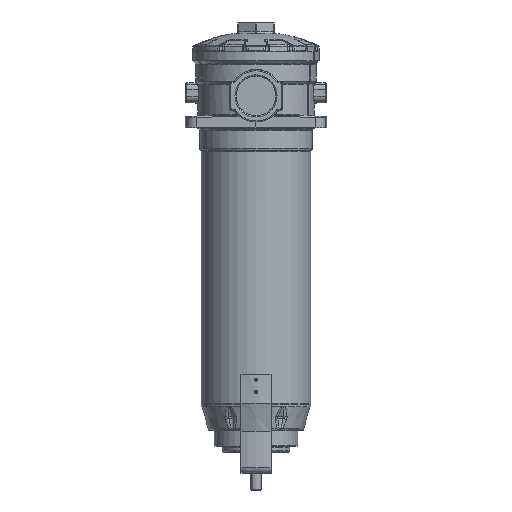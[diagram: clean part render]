
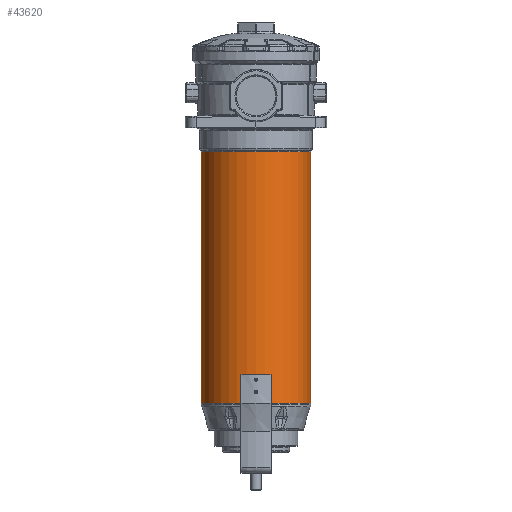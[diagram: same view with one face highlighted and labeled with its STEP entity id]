
A CAD part, front view. The second image highlights one B-rep face of the part: STEP entity #43620.
In plain terms, the highlighted cylindrical face has radius 54.5 mm (diameter 109 mm), a partial arc.
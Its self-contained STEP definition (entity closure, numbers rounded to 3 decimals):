
#6996=CARTESIAN_POINT('',(54.5,0.004,
-99.736));
#7116=CARTESIAN_POINT('',(0.,0.,
-350.852));
#7117=DIRECTION('',(0.,0.,1.));
#7118=DIRECTION('',(-1.,0.,0.));
#7119=AXIS2_PLACEMENT_3D('',#7116,#7117,#7118);
#7124=DIRECTION('',(0.,0.,-1.));
#7125=VECTOR('',#7124,251.116);
#7126=CARTESIAN_POINT('',(-54.5,0.,
-99.736));
#7127=LINE('',#7126,#7125);
#7131=DIRECTION('',(0.,0.,-1.));
#7132=VECTOR('',#7131,251.116);
#7133=CARTESIAN_POINT('',(54.5,0.004,
-99.736));
#7134=LINE('',#7133,#7132);
#7138=CARTESIAN_POINT('',(0.,0.,
-99.736));
#7139=DIRECTION('',(0.,0.,-1.));
#7140=DIRECTION('',(1.,0.,0.));
#7141=AXIS2_PLACEMENT_3D('',#7138,#7139,#7140);
#7154=CARTESIAN_POINT('',(-0.443,-54.498,
-339.45));
#7155=CARTESIAN_POINT('',(-0.443,-54.498,
-339.41));
#7156=CARTESIAN_POINT('',(-0.433,-54.498,
-339.332));
#7157=CARTESIAN_POINT('',(-0.388,-54.499,
-339.221));
#7158=CARTESIAN_POINT('',(-0.316,-54.499,
-339.126));
#7159=CARTESIAN_POINT('',(-0.221,-54.5,
-339.053));
#7160=CARTESIAN_POINT('',(-0.114,-54.5,
-339.009));
#7161=CARTESIAN_POINT('',(0.,-54.5,
-338.994));
#7162=CARTESIAN_POINT('',(0.113,-54.5,
-339.009));
#7163=CARTESIAN_POINT('',(0.221,-54.5,
-339.053));
#7164=CARTESIAN_POINT('',(0.316,-54.499,
-339.126));
#7165=CARTESIAN_POINT('',(0.388,-54.499,
-339.221));
#7166=CARTESIAN_POINT('',(0.433,-54.498,
-339.332));
#7167=CARTESIAN_POINT('',(0.443,-54.498,
-339.41));
#7168=CARTESIAN_POINT('',(0.443,-54.498,
-339.45));
#7189=CARTESIAN_POINT('',(0.443,-54.498,
-339.45));
#7190=CARTESIAN_POINT('',(0.443,-54.498,
-339.49));
#7191=CARTESIAN_POINT('',(0.433,-54.498,
-339.568));
#7192=CARTESIAN_POINT('',(0.388,-54.499,
-339.679));
#7193=CARTESIAN_POINT('',(0.316,-54.499,
-339.774));
#7194=CARTESIAN_POINT('',(0.221,-54.5,
-339.847));
#7195=CARTESIAN_POINT('',(0.114,-54.5,
-339.891));
#7196=CARTESIAN_POINT('',(0.,-54.5,
-339.906));
#7197=CARTESIAN_POINT('',(-0.113,-54.5,
-339.891));
#7198=CARTESIAN_POINT('',(-0.221,-54.5,
-339.847));
#7199=CARTESIAN_POINT('',(-0.316,-54.499,
-339.774));
#7200=CARTESIAN_POINT('',(-0.388,-54.499,
-339.679));
#7201=CARTESIAN_POINT('',(-0.433,-54.498,
-339.568));
#7202=CARTESIAN_POINT('',(-0.443,-54.498,
-339.49));
#7203=CARTESIAN_POINT('',(-0.443,-54.498,
-339.45));
#12746=CARTESIAN_POINT('',(0.443,-54.498,
-327.45));
#12747=CARTESIAN_POINT('',(0.443,-54.498,
-327.49));
#12748=CARTESIAN_POINT('',(0.433,-54.498,
-327.568));
#12749=CARTESIAN_POINT('',(0.388,-54.499,
-327.679));
#12750=CARTESIAN_POINT('',(0.316,-54.499,
-327.774));
#12751=CARTESIAN_POINT('',(0.221,-54.5,
-327.847));
#12752=CARTESIAN_POINT('',(0.114,-54.5,
-327.891));
#12753=CARTESIAN_POINT('',(0.,-54.5,
-327.906));
#12754=CARTESIAN_POINT('',(-0.113,-54.5,
-327.891));
#12755=CARTESIAN_POINT('',(-0.221,-54.5,
-327.847));
#12756=CARTESIAN_POINT('',(-0.316,-54.499,
-327.774));
#12757=CARTESIAN_POINT('',(-0.388,-54.499,
-327.679));
#12758=CARTESIAN_POINT('',(-0.433,-54.498,
-327.568));
#12759=CARTESIAN_POINT('',(-0.443,-54.498,
-327.49));
#12760=CARTESIAN_POINT('',(-0.443,-54.498,
-327.45));
#12796=CARTESIAN_POINT('',(-0.443,-54.498,
-327.45));
#12797=CARTESIAN_POINT('',(-0.443,-54.498,
-327.41));
#12798=CARTESIAN_POINT('',(-0.433,-54.498,
-327.332));
#12799=CARTESIAN_POINT('',(-0.388,-54.499,
-327.221));
#12800=CARTESIAN_POINT('',(-0.316,-54.499,
-327.126));
#12801=CARTESIAN_POINT('',(-0.221,-54.5,
-327.053));
#12802=CARTESIAN_POINT('',(-0.114,-54.5,
-327.009));
#12803=CARTESIAN_POINT('',(0.,-54.5,
-326.994));
#12804=CARTESIAN_POINT('',(0.113,-54.5,
-327.009));
#12805=CARTESIAN_POINT('',(0.221,-54.5,
-327.053));
#12806=CARTESIAN_POINT('',(0.316,-54.499,
-327.126));
#12807=CARTESIAN_POINT('',(0.388,-54.499,
-327.221));
#12808=CARTESIAN_POINT('',(0.433,-54.498,
-327.332));
#12809=CARTESIAN_POINT('',(0.443,-54.498,
-327.41));
#12810=CARTESIAN_POINT('',(0.443,-54.498,
-327.45));
#34769=CARTESIAN_POINT('',(-54.5,0.,
-99.736));
#34771=VERTEX_POINT('',#34769);
#34773=VERTEX_POINT('',#6996);
#34778=CARTESIAN_POINT('',(54.5,0.003,
-350.852));
#34779=VERTEX_POINT('',#34778);
#34780=CARTESIAN_POINT('',(-54.5,0.,
-350.852));
#34781=VERTEX_POINT('',#34780);
#34840=VERTEX_POINT('',#7154);
#34841=VERTEX_POINT('',#7168);
#34842=VERTEX_POINT('',#12796);
#34843=VERTEX_POINT('',#12810);
#43596=CARTESIAN_POINT('',(0.,0.,
-225.448));
#43597=DIRECTION('',(0.,0.,-1.));
#43598=DIRECTION('',(-1.,0.,0.));
#43599=AXIS2_PLACEMENT_3D('',#43596,#43597,#43598);
#43600=CYLINDRICAL_SURFACE('',#43599,54.5);
#43601=ORIENTED_EDGE('',*,*,#43590,.F.);
#43602=ORIENTED_EDGE('',*,*,#43506,.F.);
#43604=ORIENTED_EDGE('',*,*,#43603,.F.);
#43605=ORIENTED_EDGE('',*,*,#43503,.T.);
#43606=EDGE_LOOP('',(#43601,#43602,#43604,#43605));
#43607=FACE_OUTER_BOUND('',#43606,.F.);
#43609=ORIENTED_EDGE('',*,*,#43608,.F.);
#43611=ORIENTED_EDGE('',*,*,#43610,.F.);
#43612=EDGE_LOOP('',(#43609,#43611));
#43613=FACE_BOUND('',#43612,.F.);
#43615=ORIENTED_EDGE('',*,*,#43614,.F.);
#43617=ORIENTED_EDGE('',*,*,#43616,.F.);
#43618=EDGE_LOOP('',(#43615,#43617));
#43619=FACE_BOUND('',#43618,.F.);
#7120=CIRCLE('',#7119,54.5);
#7142=CIRCLE('',#7141,54.5);
#7169=B_SPLINE_CURVE_WITH_KNOTS('',3,(#7154,#7155,#7156,#7157,#7158,#7159,#7160,
#7161,#7162,#7163,#7164,#7165,#7166,#7167,#7168),.UNSPECIFIED.,.F.,.F.,(4,1,1,1,
1,1,1,1,1,1,1,1,4),(0.,0.083,0.167,0.25,
0.333,0.417,0.5,0.583,0.667,
0.75,0.833,0.917,1.),.UNSPECIFIED.);
#7204=B_SPLINE_CURVE_WITH_KNOTS('',3,(#7189,#7190,#7191,#7192,#7193,#7194,#7195,
#7196,#7197,#7198,#7199,#7200,#7201,#7202,#7203),.UNSPECIFIED.,.F.,.F.,(4,1,1,1,
1,1,1,1,1,1,1,1,4),(0.,0.083,0.167,0.25,
0.333,0.417,0.5,0.583,0.667,
0.75,0.833,0.917,1.),.UNSPECIFIED.);
#12761=B_SPLINE_CURVE_WITH_KNOTS('',3,(#12746,#12747,#12748,#12749,#12750,
#12751,#12752,#12753,#12754,#12755,#12756,#12757,#12758,#12759,#12760),
.UNSPECIFIED.,.F.,.F.,(4,1,1,1,1,1,1,1,1,1,1,1,4),(0.,0.083,
0.167,0.25,0.333,0.417,0.5,
0.583,0.667,0.75,0.833,0.917,
1.),.UNSPECIFIED.);
#12811=B_SPLINE_CURVE_WITH_KNOTS('',3,(#12796,#12797,#12798,#12799,#12800,
#12801,#12802,#12803,#12804,#12805,#12806,#12807,#12808,#12809,#12810),
.UNSPECIFIED.,.F.,.F.,(4,1,1,1,1,1,1,1,1,1,1,1,4),(0.,0.083,
0.167,0.25,0.333,0.417,0.5,
0.583,0.667,0.75,0.833,0.917,
1.),.UNSPECIFIED.);
#43503=EDGE_CURVE('',#34773,#34779,#7134,.T.);
#43506=EDGE_CURVE('',#34771,#34781,#7127,.T.);
#43590=EDGE_CURVE('',#34781,#34779,#7120,.T.);
#43603=EDGE_CURVE('',#34773,#34771,#7142,.T.);
#43608=EDGE_CURVE('',#34840,#34841,#7169,.T.);
#43610=EDGE_CURVE('',#34841,#34840,#7204,.T.);
#43614=EDGE_CURVE('',#34842,#34843,#12811,.T.);
#43616=EDGE_CURVE('',#34843,#34842,#12761,.T.);
#43620=ADVANCED_FACE('',(#43607,#43613,#43619),#43600,.T.);
